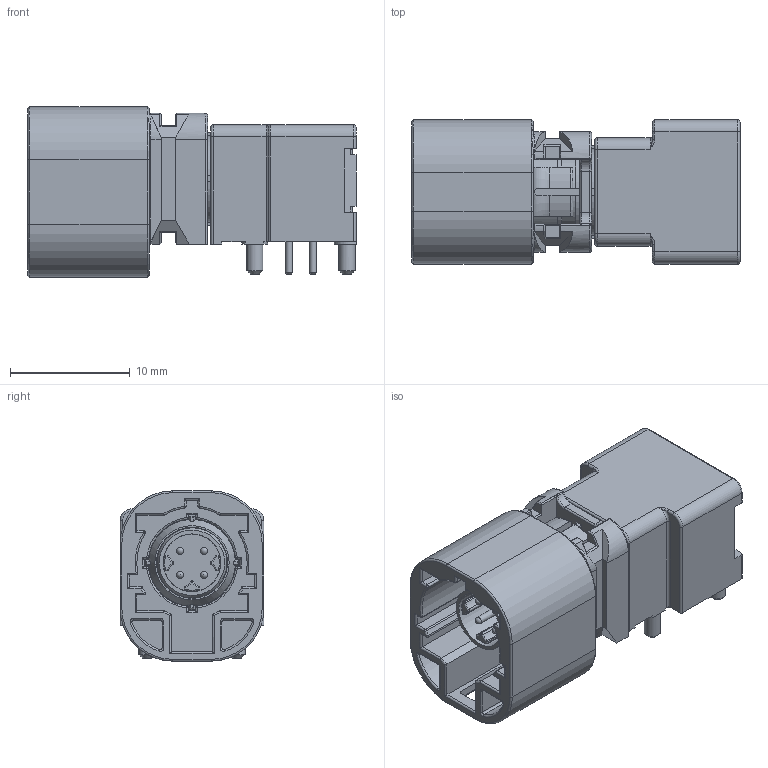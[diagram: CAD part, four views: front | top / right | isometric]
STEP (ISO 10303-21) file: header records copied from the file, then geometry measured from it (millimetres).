
FILE_DESCRIPTION(/* description */ (''),/* implementation_level */ '2;1');
FILE_NAME(/* name */ 'BG_18_1.stp',/* time_stamp */ '2013-02-18T16:09:43+01:00',/* author */ (''),/* organization */ (''),/* preprocessor_version */ 'ST-DEVELOPER v11',/* originating_system */ 'SIEMENS UGS NX 6.0',/* authorisation */ '');
FILE_SCHEMA (('AUTOMOTIVE_DESIGN { 1 0 10303 214 1 1 1 1 }'));
Length unit declared in the file: millimetre
Products named in the file (1): BG_18_1
Bounding box: 27.35 x 12 x 14.2 mm (x, y, z)
Volume: 2350 mm3; surface area: 3160 mm2
Topology: 1 solids, 1 shells, 819 faces, 2208 edges, 1355 vertices
Faces by surface type: plane 359, cylinder 289, torus 91, sphere 33, cone 26, bspline 17, revolution 4
Full cylindrical faces by diameter (mm): 0.6 x8, 1.35 x2, 2 x2, 4.8 x1, 4.82 x2, 5.45 x1, 5.831 x1, 5.92 x1
Entity records: 32392 total; most frequent: CARTESIAN_POINT 6409, DIRECTION 4286, ORIENTED_EDGE 4248, EDGE_CURVE 2124, AXIS2_PLACEMENT_3D 1551, VERTEX_POINT 1334, LINE 1182, VECTOR 1182
